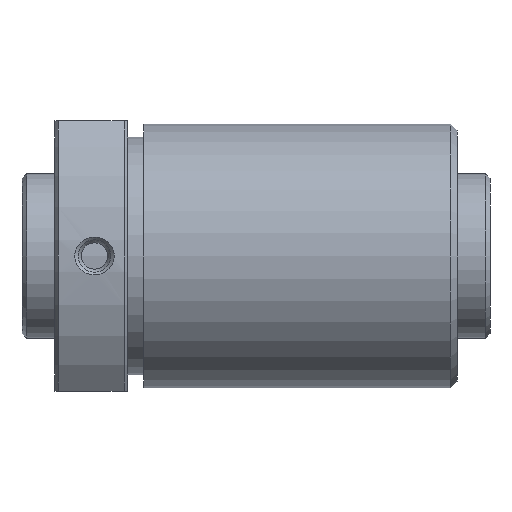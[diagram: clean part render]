
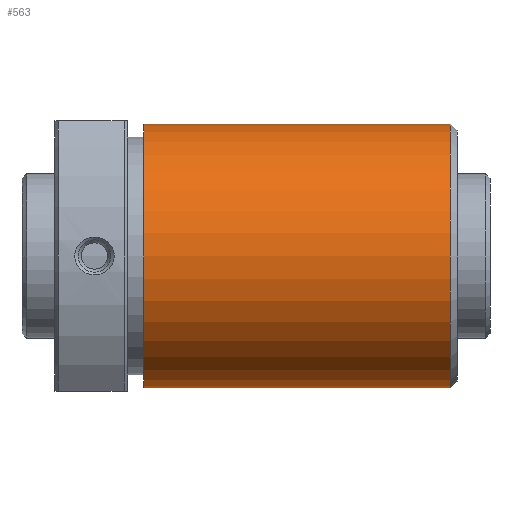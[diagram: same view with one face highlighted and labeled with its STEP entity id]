
A CAD part, front view. The second image highlights one B-rep face of the part: STEP entity #563.
In plain terms, the highlighted cylindrical face has radius 20 mm (diameter 40 mm), a full revolution.
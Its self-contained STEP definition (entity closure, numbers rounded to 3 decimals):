
#69=CYLINDRICAL_SURFACE('',#667,20.);
#169=ORIENTED_EDGE('',*,*,#257,.T.);
#170=ORIENTED_EDGE('',*,*,#256,.F.);
#256=EDGE_CURVE('',#308,#308,#350,.T.);
#257=EDGE_CURVE('',#309,#309,#351,.T.);
#308=VERTEX_POINT('',#1040);
#309=VERTEX_POINT('',#1043);
#350=CIRCLE('',#666,20.);
#351=CIRCLE('',#668,20.);
#417=EDGE_LOOP('',(#169));
#418=EDGE_LOOP('',(#170));
#499=FACE_BOUND('',#417,.T.);
#500=FACE_BOUND('',#418,.T.);
#563=ADVANCED_FACE('',(#499,#500),#69,.T.);
#666=AXIS2_PLACEMENT_3D('',#1039,#825,#826);
#667=AXIS2_PLACEMENT_3D('',#1041,#827,#828);
#668=AXIS2_PLACEMENT_3D('',#1042,#829,#830);
#825=DIRECTION('',(1.,0.,0.));
#826=DIRECTION('',(0.,0.,-1.));
#827=DIRECTION('',(1.,0.,0.));
#828=DIRECTION('',(0.,0.,-1.));
#829=DIRECTION('',(1.,0.,0.));
#830=DIRECTION('',(0.,0.,-1.));
#1039=CARTESIAN_POINT('',(60.,0.,0.));
#1040=CARTESIAN_POINT('',(60.,0.,-20.));
#1041=CARTESIAN_POINT('',(50.,0.,0.));
#1042=CARTESIAN_POINT('',(13.5,0.,0.));
#1043=CARTESIAN_POINT('',(13.5,0.,-20.));
